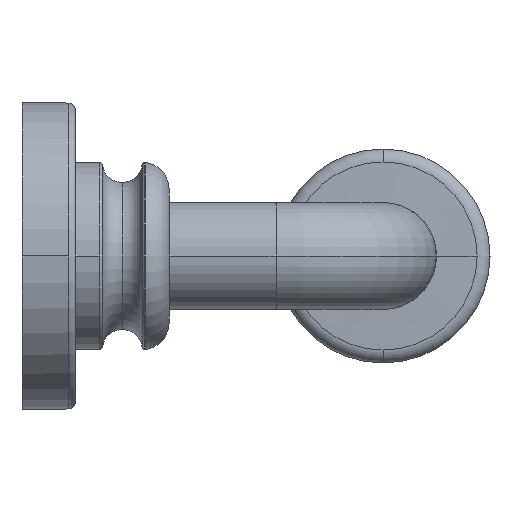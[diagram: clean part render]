
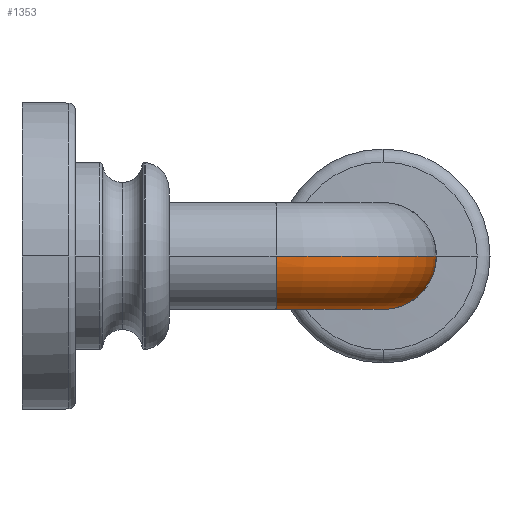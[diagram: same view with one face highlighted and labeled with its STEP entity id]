
A CAD part, left-side view. The second image highlights one B-rep face of the part: STEP entity #1353.
In plain terms, the highlighted toroidal (fillet/blend) face has major radius 8 mm and minor radius 4 mm.
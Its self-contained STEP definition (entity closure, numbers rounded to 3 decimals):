
#505 = EDGE_CURVE( '', #1117, #945, #1457, .T. );
#537 = EDGE_CURVE( '', #1117, #953, #1491, .T. );
#621 = VERTEX_POINT( '', #1587 );
#777 = EDGE_CURVE( '', #1103, #953, #1762, .T. );
#871 = EDGE_CURVE( '', #945, #971, #1868, .T. );
#945 = VERTEX_POINT( '', #1949 );
#953 = VERTEX_POINT( '', #1959 );
#971 = VERTEX_POINT( '', #1977 );
#973 = EDGE_CURVE( '', #1103, #1197, #1979, .T. );
#1061 = EDGE_CURVE( '', #971, #621, #2078, .T. );
#1103 = VERTEX_POINT( '', #2125 );
#1117 = VERTEX_POINT( '', #2141 );
#1197 = VERTEX_POINT( '', #2225 );
#1287 = EDGE_CURVE( '', #1197, #621, #2326, .T. );
#1353 = ADVANCED_FACE( '', ( #2397 ), #2398, .T. );
#1457 = B_SPLINE_CURVE_WITH_KNOTS( '', 3, ( #2501, #2502, #2503, #2504, #2505, #2506 ), .UNSPECIFIED., .F., .F., ( 4, 2, 4 ), ( -0.008, 0., 0.012 ), .UNSPECIFIED. );
#1491 = CIRCLE( '', #2552, 4. );
#1587 = CARTESIAN_POINT( '', ( 8., -30.98, 0. ) );
#1762 = CIRCLE( '', #2931, 4. );
#1868 = B_SPLINE_CURVE_WITH_KNOTS( '', 3, ( #3058, #3059, #3060, #3061, #3062, #3063, #3064, #3065, #3066, #3067, #3068, #3069, #3070, #3071, #3072, #3073, #3074, #3075, #3076, #3077, #3078, #3079, #3080, #3081, #3082, #3083, #3084, #3085, #3086, #3087, #3088, #3089, #3090, #3091, #3092 ), .UNSPECIFIED., .F., .F., ( 4, 2, 2, 2, 2, 2, 2, 2, 3, 2, 2, 2, 2, 2, 2, 2, 4 ), ( 17.772, 18.512, 19.253, 19.993, 20.734, 21.474, 22.214, 22.955, 23.695, 24.436, 25.176, 25.917, 26.657, 27.398, 28.138, 28.879, 29.619 ), .UNSPECIFIED. );
#1949 = CARTESIAN_POINT( '', ( 0., -19., -4. ) );
#1959 = CARTESIAN_POINT( '', ( 4., -18.98, 0. ) );
#1977 = CARTESIAN_POINT( '', ( -4., -19., 0. ) );
#1979 = CIRCLE( '', #3233, 4. );
#2078 = CIRCLE( '', #3353, 12. );
#2125 = CARTESIAN_POINT( '', ( 8., -22.98, 0. ) );
#2141 = CARTESIAN_POINT( '', ( 0., -18.98, -4. ) );
#2225 = CARTESIAN_POINT( '', ( 8., -26.99, -4. ) );
#2326 = CIRCLE( '', #3666, 4. );
#2397 = FACE_OUTER_BOUND( '', #3759, .T. );
#2398 = TOROIDAL_SURFACE( '', #3760, 8., 4. );
#2501 = CARTESIAN_POINT( '', ( 0., -18.98, -4. ) );
#2502 = CARTESIAN_POINT( '', ( 0., -18.983, -4. ) );
#2503 = CARTESIAN_POINT( '', ( 0., -18.985, -4. ) );
#2504 = CARTESIAN_POINT( '', ( 0., -18.992, -4. ) );
#2505 = CARTESIAN_POINT( '', ( 0., -18.996, -4. ) );
#2506 = CARTESIAN_POINT( '', ( 0., -19., -4. ) );
#2552 = AXIS2_PLACEMENT_3D( '', #3929, #3930, #3931 );
#2931 = AXIS2_PLACEMENT_3D( '', #4333, #4334, #4335 );
#3058 = CARTESIAN_POINT( '', ( 0., -19., -4. ) );
#3059 = CARTESIAN_POINT( '', ( -0.247, -19., -4. ) );
#3060 = CARTESIAN_POINT( '', ( -0.516, -19., -3.976 ) );
#3061 = CARTESIAN_POINT( '', ( -1.044, -19., -3.871 ) );
#3062 = CARTESIAN_POINT( '', ( -1.303, -19., -3.79 ) );
#3063 = CARTESIAN_POINT( '', ( -1.759, -19., -3.601 ) );
#3064 = CARTESIAN_POINT( '', ( -1.998, -19., -3.475 ) );
#3065 = CARTESIAN_POINT( '', ( -2.446, -19., -3.176 ) );
#3066 = CARTESIAN_POINT( '', ( -2.654, -19., -3.003 ) );
#3067 = CARTESIAN_POINT( '', ( -3.003, -19., -2.654 ) );
#3068 = CARTESIAN_POINT( '', ( -3.176, -19., -2.446 ) );
#3069 = CARTESIAN_POINT( '', ( -3.475, -19., -1.998 ) );
#3070 = CARTESIAN_POINT( '', ( -3.601, -19., -1.759 ) );
#3071 = CARTESIAN_POINT( '', ( -3.79, -19., -1.303 ) );
#3072 = CARTESIAN_POINT( '', ( -3.871, -19., -1.044 ) );
#3073 = CARTESIAN_POINT( '', ( -3.976, -19., -0.516 ) );
#3074 = CARTESIAN_POINT( '', ( -4., -19., -0.247 ) );
#3075 = CARTESIAN_POINT( '', ( -4., -19., 0. ) );
#3076 = CARTESIAN_POINT( '', ( -4., -19., 0.247 ) );
#3077 = CARTESIAN_POINT( '', ( -3.976, -19., 0.516 ) );
#3078 = CARTESIAN_POINT( '', ( -3.871, -19., 1.044 ) );
#3079 = CARTESIAN_POINT( '', ( -3.79, -19., 1.303 ) );
#3080 = CARTESIAN_POINT( '', ( -3.601, -19., 1.759 ) );
#3081 = CARTESIAN_POINT( '', ( -3.475, -19., 1.998 ) );
#3082 = CARTESIAN_POINT( '', ( -3.176, -19., 2.446 ) );
#3083 = CARTESIAN_POINT( '', ( -3.003, -19., 2.654 ) );
#3084 = CARTESIAN_POINT( '', ( -2.654, -19., 3.003 ) );
#3085 = CARTESIAN_POINT( '', ( -2.446, -19., 3.176 ) );
#3086 = CARTESIAN_POINT( '', ( -1.998, -19., 3.475 ) );
#3087 = CARTESIAN_POINT( '', ( -1.759, -19., 3.601 ) );
#3088 = CARTESIAN_POINT( '', ( -1.303, -19., 3.79 ) );
#3089 = CARTESIAN_POINT( '', ( -1.044, -19., 3.871 ) );
#3090 = CARTESIAN_POINT( '', ( -0.516, -19., 3.976 ) );
#3091 = CARTESIAN_POINT( '', ( -0.247, -19., 4. ) );
#3092 = CARTESIAN_POINT( '', ( 0., -19., 4. ) );
#3233 = AXIS2_PLACEMENT_3D( '', #4608, #4609, #4610 );
#3353 = AXIS2_PLACEMENT_3D( '', #4757, #4758, #4759 );
#3666 = AXIS2_PLACEMENT_3D( '', #5109, #5110, #5111 );
#3759 = EDGE_LOOP( '', ( #5201, #5202, #5203, #5204, #5205, #5206, #5207 ) );
#3760 = AXIS2_PLACEMENT_3D( '', #5208, #5209, #5210 );
#3929 = CARTESIAN_POINT( '', ( 0., -18.98, 0. ) );
#3930 = DIRECTION( '', ( 0., -1., 0. ) );
#3931 = DIRECTION( '', ( -1., 0., 0. ) );
#4333 = CARTESIAN_POINT( '', ( 8., -18.98, 0. ) );
#4334 = DIRECTION( '', ( 0., 0., -1. ) );
#4335 = DIRECTION( '', ( 1., 0., 0. ) );
#4608 = CARTESIAN_POINT( '', ( 8., -26.98, 0. ) );
#4609 = DIRECTION( '', ( -1., 0., 0. ) );
#4610 = DIRECTION( '', ( 0., 1., 0. ) );
#4757 = CARTESIAN_POINT( '', ( 8., -18.98, 0. ) );
#4758 = DIRECTION( '', ( 0., 0., 1. ) );
#4759 = DIRECTION( '', ( 1., 0., 0. ) );
#5109 = CARTESIAN_POINT( '', ( 8., -26.98, 0. ) );
#5110 = DIRECTION( '', ( -1., 0., 0. ) );
#5111 = DIRECTION( '', ( 0., 1., 0. ) );
#5201 = ORIENTED_EDGE( '', *, *, #1061, .F. );
#5202 = ORIENTED_EDGE( '', *, *, #871, .F. );
#5203 = ORIENTED_EDGE( '', *, *, #505, .F. );
#5204 = ORIENTED_EDGE( '', *, *, #537, .T. );
#5205 = ORIENTED_EDGE( '', *, *, #777, .F. );
#5206 = ORIENTED_EDGE( '', *, *, #973, .T. );
#5207 = ORIENTED_EDGE( '', *, *, #1287, .T. );
#5208 = CARTESIAN_POINT( '', ( 8., -18.98, 0. ) );
#5209 = DIRECTION( '', ( 0., 0., 1. ) );
#5210 = DIRECTION( '', ( 1., 0., 0. ) );
